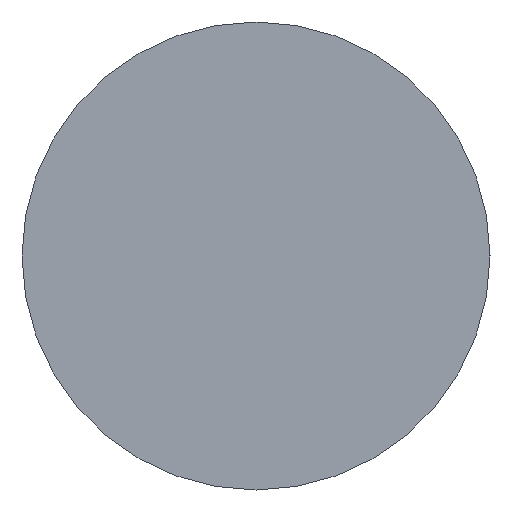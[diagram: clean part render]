
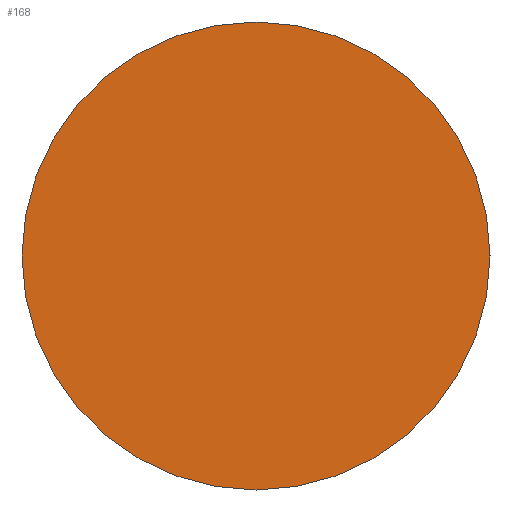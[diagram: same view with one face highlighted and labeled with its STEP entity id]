
A CAD part, left-side view. The second image highlights one B-rep face of the part: STEP entity #168.
In plain terms, the highlighted planar face has unit normal (-1, 0, 0).
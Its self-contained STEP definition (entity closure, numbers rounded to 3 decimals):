
#16 = CARTESIAN_POINT ( 'NONE',  ( 0., 3.5, 0. ) ) ;
#31 = AXIS2_PLACEMENT_3D ( 'NONE', #203, #143, #73 ) ;
#35 = DIRECTION ( 'NONE',  ( 1., 0., 0. ) ) ;
#36 = VERTEX_POINT ( 'NONE', #16 ) ;
#38 = AXIS2_PLACEMENT_3D ( 'NONE', #79, #65, #89 ) ;
#65 = DIRECTION ( 'NONE',  ( 1., 0., 0. ) ) ;
#73 = DIRECTION ( 'NONE',  ( 0., -1., 0. ) ) ;
#75 = FACE_OUTER_BOUND ( 'NONE', #165, .T. ) ;
#79 = CARTESIAN_POINT ( 'NONE',  ( 0., 0., 0. ) ) ;
#81 = ORIENTED_EDGE ( 'NONE', *, *, #212, .F. ) ;
#89 = DIRECTION ( 'NONE',  ( 0., 1., 0. ) ) ;
#99 = ORIENTED_EDGE ( 'NONE', *, *, #254, .F. ) ;
#143 = DIRECTION ( 'NONE',  ( -1., 0., 0. ) ) ;
#146 = AXIS2_PLACEMENT_3D ( 'NONE', #151, #35, #271 ) ;
#151 = CARTESIAN_POINT ( 'NONE',  ( 0., 0., 0. ) ) ;
#160 = VERTEX_POINT ( 'NONE', #201 ) ;
#165 = EDGE_LOOP ( 'NONE', ( #99, #81 ) ) ;
#168 = ADVANCED_FACE ( 'NONE', ( #75 ), #194, .T. ) ;
#194 = PLANE ( 'NONE',  #31 ) ;
#197 = CIRCLE ( 'NONE', #38, 3.5 ) ;
#201 = CARTESIAN_POINT ( 'NONE',  ( 0., -3.5, 0. ) ) ;
#203 = CARTESIAN_POINT ( 'NONE',  ( 0., 0., 0. ) ) ;
#208 = CIRCLE ( 'NONE', #146, 3.5 ) ;
#212 = EDGE_CURVE ( 'NONE', #160, #36, #208, .T. ) ;
#254 = EDGE_CURVE ( 'NONE', #36, #160, #197, .T. ) ;
#271 = DIRECTION ( 'NONE',  ( 0., 1., 0. ) ) ;
